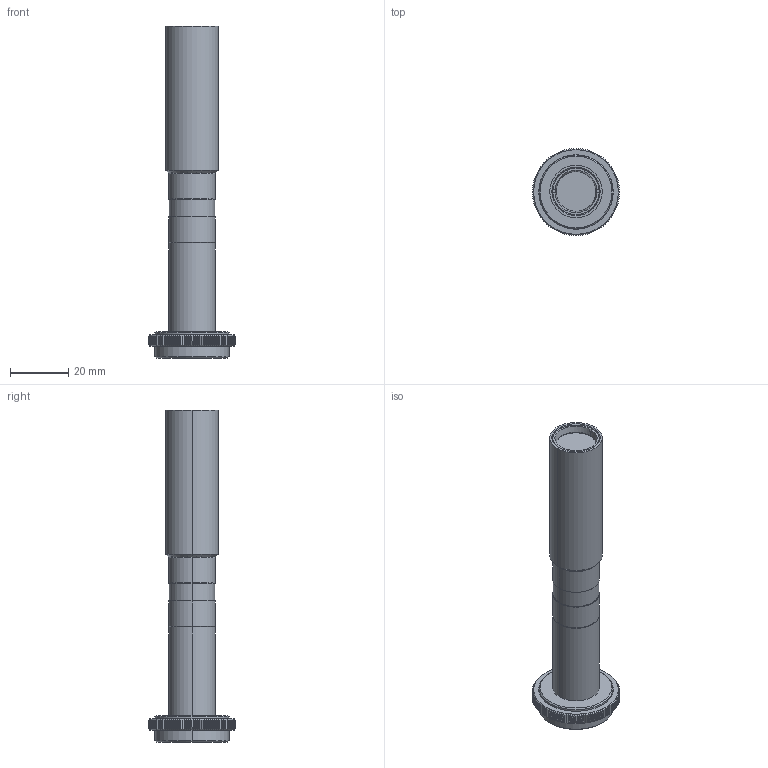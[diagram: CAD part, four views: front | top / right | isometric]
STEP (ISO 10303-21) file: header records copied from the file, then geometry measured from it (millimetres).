
FILE_DESCRIPTION (( 'STEP AP203' ), '1' );
FILE_NAME ('MML1-ST110_A03419A0100101A-001.STEP', '2013-11-28T09:13:36', ( 'SCHOTT' ), ( 'SCHOTT' ), 'SwSTEP 2.0', 'SolidWorks 2011', '' );
FILE_SCHEMA (( 'CONFIG_CONTROL_DESIGN' ));
Length unit declared in the file: millimetre
Products named in the file (1): MML1-ST110_A03419A0100101A-001
Bounding box: 30 x 30 x 113.83 mm (x, y, z)
Volume: 22937.8 mm3; surface area: 9550 mm2
Topology: 1 solids, 1 shells, 320 faces, 888 edges, 582 vertices
Faces by surface type: plane 262, cone 32, cylinder 26
Entity records: 10641 total; most frequent: CARTESIAN_POINT 3267, ORIENTED_EDGE 1776, DIRECTION 1134, EDGE_CURVE 888, VERTEX_POINT 582, B_SPLINE_CURVE_WITH_KNOTS 488, AXIS2_PLACEMENT_3D 413, EDGE_LOOP 332
